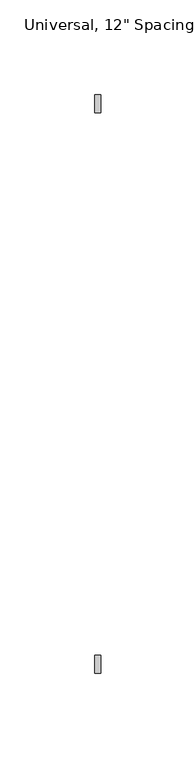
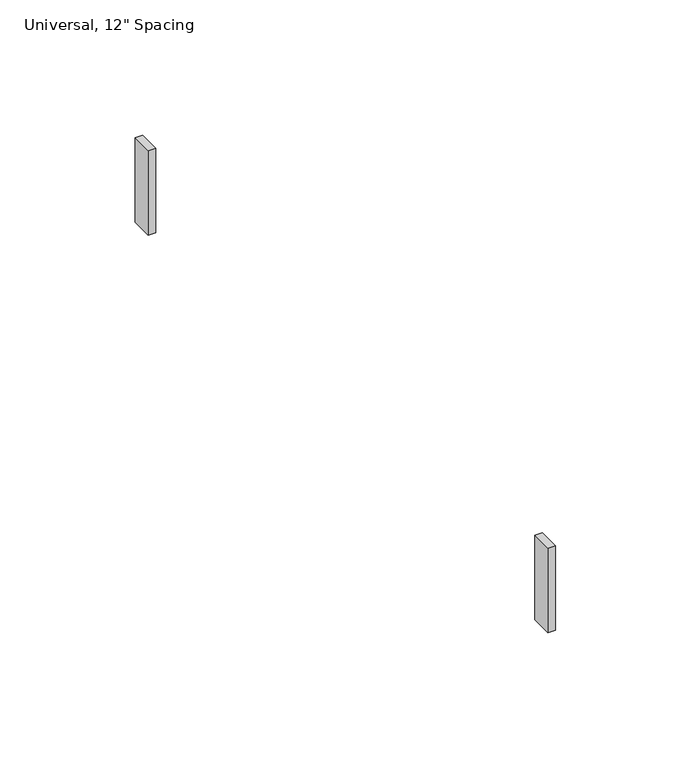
"""IFC4 building model written with IfcOpenShell, lengths in millimetres: cable carrier fitting geometry."""

from ifc_helpers import new_model, si_unit, frame, origin, place, context, project, spatial, polyline, outline, extrude, source, transform, mapped, element, save


def cable_carrier_fitting_d5c9a402(model_context):
    return source(origin(), model_context, "Body", "SweptSolid", [
        extrude(outline(polyline([(1.5875, 152.4), (1.5875, 142.875), (-1.5875, 142.875), (-1.5875, 152.4), (1.5875, 152.4)])), frame((0.0, 0.0, -19.05), z_axis=(0.0, 0.0, 1.0), x_axis=(1.0, 0.0, 0.0)), (0.0, 0.0, 1.0), 38.1),
        extrude(outline(polyline([(1.5875, -142.875), (1.5875, -152.4), (-1.5875, -152.4), (-1.5875, -142.875), (1.5875, -142.875)])), frame((0.0, 0.0, -19.05), z_axis=(0.0, 0.0, 1.0), x_axis=(1.0, 0.0, 0.0)), (0.0, 0.0, 1.0), 38.1),
    ])


if __name__ == "__main__":
    model = new_model("IFC4")
    model_context = context("Model", 3, world=origin())
    ifc_project = project(units=[si_unit("LENGTHUNIT", "METRE", prefix="MILLI")], contexts=[model_context])
    site = spatial("IfcSite", under=ifc_project)
    building = spatial("IfcBuilding", under=site)
    placement = place(None, origin())
    cable_carrier_fitting_shape = cable_carrier_fitting_d5c9a402(model_context)
    element("IfcCableCarrierFitting", 1, ObjectType="Cable_Tray_Fitting-Intersection-Chatsworth-Cross : Universal, 12\" Spacing", at=placement, inside=building, context=model_context, shape_type="MappedRepresentation", body=[
        mapped(cable_carrier_fitting_shape, transform((0.0, 0.0, 0.0), x_axis=(1.0, 0.0, 0.0), y_axis=(0.0, 1.0, 0.0), z_axis=(0.0, 0.0, 1.0))),
    ])
    save(model, "model.ifc")
